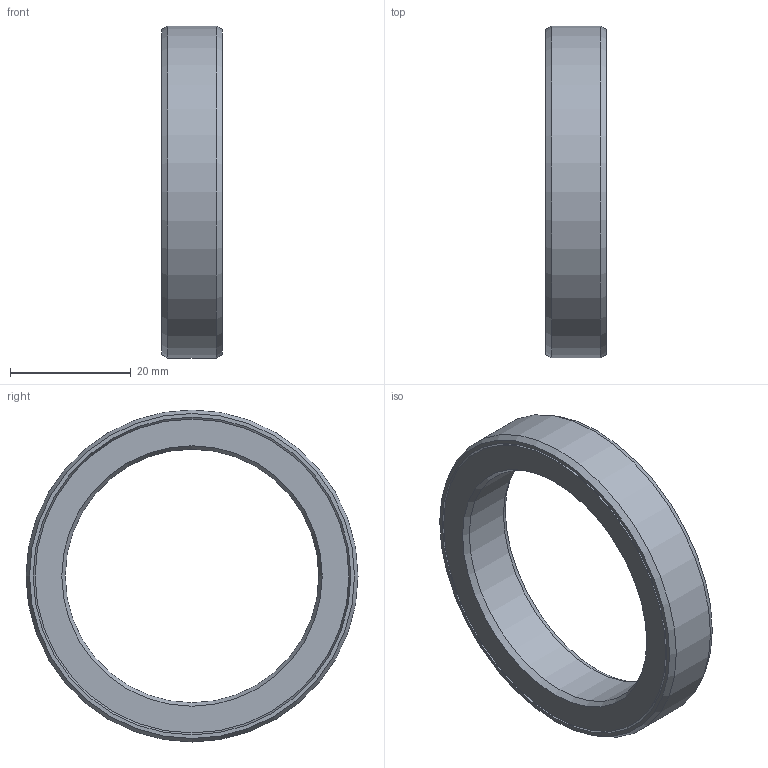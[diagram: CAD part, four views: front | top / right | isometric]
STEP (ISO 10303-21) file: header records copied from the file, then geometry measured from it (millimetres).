
FILE_DESCRIPTION(/* description */ (''),/* implementation_level */ '2;1');
FILE_NAME(/* name */ '301204 l 42x55x10.stp',/* time_stamp */ '2016-12-15T09:20:01+01:00',/* author */ (''),/* organization */ (''),/* preprocessor_version */ 'ST-DEVELOPER v15',/* originating_system */ 'SIEMENS PLM Software NX 8.5',/* authorisation */ '');
FILE_SCHEMA (('CONFIG_CONTROL_DESIGN'));
Length unit declared in the file: millimetre
Products named in the file (1): ATE0000122_01
Bounding box: 10 x 55 x 55 mm (x, y, z)
Volume: 9162.4 mm3; surface area: 8435.7 mm2
Topology: 2 solids, 2 shells, 18 faces, 34 edges, 20 vertices
Faces by surface type: cone 12, plane 4, cylinder 2
Full cylindrical faces by diameter (mm): 42 x1, 55 x1
Entity records: 454 total; most frequent: DIRECTION 74, CARTESIAN_POINT 55, AXIS2_PLACEMENT_3D 37, FACE_BOUND 36, EDGE_LOOP 36, ORIENTED_EDGE 36, ADVANCED_FACE 18, VERTEX_POINT 18
